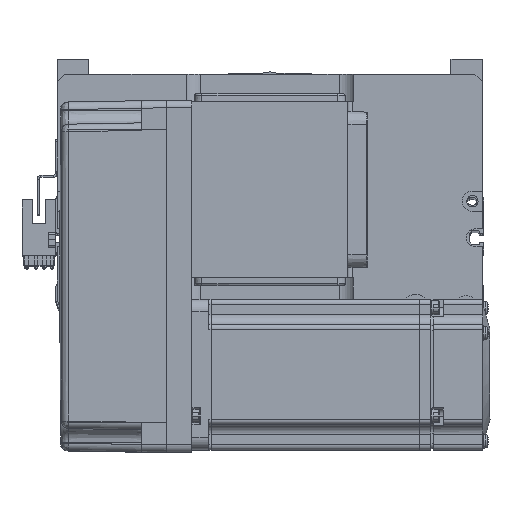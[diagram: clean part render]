
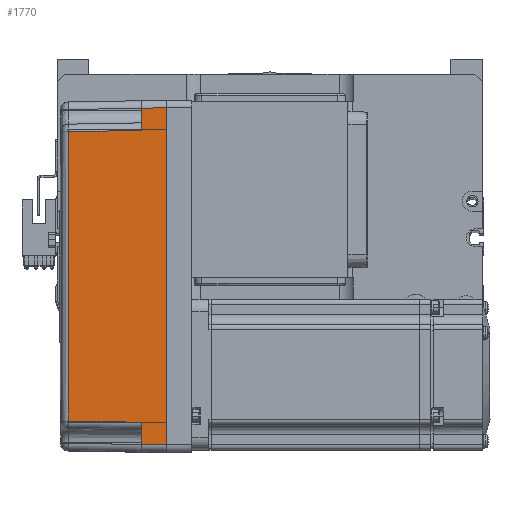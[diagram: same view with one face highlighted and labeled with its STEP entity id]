
A CAD part, top view. The second image highlights one B-rep face of the part: STEP entity #1770.
In plain terms, the highlighted planar face has unit normal (-0.018, 0, 1) as drawn and (0, -1, 0.017) by its records, which use the part's own axes.
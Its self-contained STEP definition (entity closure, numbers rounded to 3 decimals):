
#1289 = VECTOR ( 'NONE', #48291, 1000. ) ;
#1656 = ORIENTED_EDGE ( 'NONE', *, *, #17553, .T. ) ;
#1770 = ADVANCED_FACE ( 'NONE', ( #37779 ), #42570, .T. ) ;
#2294 = DIRECTION ( 'NONE',  ( -0.017, 0.017, 1. ) ) ;
#3435 = DIRECTION ( 'NONE',  ( -0.017, 0.017, 1. ) ) ;
#5139 = VERTEX_POINT ( 'NONE', #12595 ) ;
#5605 = EDGE_LOOP ( 'NONE', ( #8584, #44977, #10164, #46331, #60323, #1656, #38034, #44585 ) ) ;
#5674 = EDGE_CURVE ( 'NONE', #54773, #20363, #13111, .T. ) ;
#5702 = DIRECTION ( 'NONE',  ( 0.017, 0.017, 1. ) ) ;
#7256 = VECTOR ( 'NONE', #2294, 1000. ) ;
#8584 = ORIENTED_EDGE ( 'NONE', *, *, #40411, .T. ) ;
#10060 = CARTESIAN_POINT ( 'NONE',  ( 70., -35.825, 10. ) ) ;
#10164 = ORIENTED_EDGE ( 'NONE', *, *, #5674, .T. ) ;
#10828 = CARTESIAN_POINT ( 'NONE',  ( -66.959, -35.958, 2.39 ) ) ;
#11956 = CARTESIAN_POINT ( 'NONE',  ( 70., -35.825, 10. ) ) ;
#12595 = CARTESIAN_POINT ( 'NONE',  ( -66.826, -35.825, 10. ) ) ;
#13111 = LINE ( 'NONE', #16273, #7256 ) ;
#13277 = EDGE_CURVE ( 'NONE', #30538, #5139, #48190, .T. ) ;
#14396 = CARTESIAN_POINT ( 'NONE',  ( 70., -36., 0. ) ) ;
#15264 = B_SPLINE_CURVE_WITH_KNOTS ( 'NONE', 3,
 ( #24713, #24913, #15952, #43710 ),
 .UNSPECIFIED., .F., .F.,
 ( 4, 4 ),
 ( 0., 1. ),
 .UNSPECIFIED. ) ;
#15952 = CARTESIAN_POINT ( 'NONE',  ( -19.165, -35.316, 39.181 ) ) ;
#16273 = CARTESIAN_POINT ( 'NONE',  ( 58., -35.825, 10. ) ) ;
#17491 = CARTESIAN_POINT ( 'NONE',  ( 58., -35.825, 10. ) ) ;
#17553 = EDGE_CURVE ( 'NONE', #41812, #5139, #57248, .T. ) ;
#19123 = CARTESIAN_POINT ( 'NONE',  ( -57.495, -35.32, 38.985 ) ) ;
#19350 = DIRECTION ( 'NONE',  ( 0., -1., 0.017 ) ) ;
#19909 = CARTESIAN_POINT ( 'NONE',  ( 0., -36., 0. ) ) ;
#19956 = VECTOR ( 'NONE', #39562, 1000. ) ;
#20363 = VERTEX_POINT ( 'NONE', #46452 ) ;
#20529 = EDGE_CURVE ( 'NONE', #25635, #54773, #37798, .T. ) ;
#21405 = VERTEX_POINT ( 'NONE', #24363 ) ;
#21723 = CARTESIAN_POINT ( 'NONE',  ( -58., -35.825, 10. ) ) ;
#24363 = CARTESIAN_POINT ( 'NONE',  ( 67., -36., 0. ) ) ;
#24713 = CARTESIAN_POINT ( 'NONE',  ( 57.495, -35.32, 38.985 ) ) ;
#24913 = CARTESIAN_POINT ( 'NONE',  ( 19.165, -35.316, 39.181 ) ) ;
#25415 = VECTOR ( 'NONE', #42965, 1000. ) ;
#25482 = EDGE_CURVE ( 'NONE', #56933, #41812, #47051, .T. ) ;
#25635 = VERTEX_POINT ( 'NONE', #52317 ) ;
#26422 = CARTESIAN_POINT ( 'NONE',  ( -57.495, -35.32, 38.985 ) ) ;
#26785 = CARTESIAN_POINT ( 'NONE',  ( 67., -36., 0. ) ) ;
#29213 = EDGE_CURVE ( 'NONE', #20363, #56933, #15264, .T. ) ;
#30538 = VERTEX_POINT ( 'NONE', #41079 ) ;
#30899 = DIRECTION ( 'NONE',  ( -0.017, -0.017, -1. ) ) ;
#33739 = VECTOR ( 'NONE', #3435, 1000. ) ;
#37675 = DIRECTION ( 'NONE',  ( 0., -0.017, -1. ) ) ;
#37779 = FACE_OUTER_BOUND ( 'NONE', #5605, .T. ) ;
#37798 = LINE ( 'NONE', #10060, #25415 ) ;
#38034 = ORIENTED_EDGE ( 'NONE', *, *, #13277, .F. ) ;
#38657 = VECTOR ( 'NONE', #5702, 1000. ) ;
#39562 = DIRECTION ( 'NONE',  ( -1., 0., 0. ) ) ;
#40411 = EDGE_CURVE ( 'NONE', #21405, #25635, #49784, .T. ) ;
#41079 = CARTESIAN_POINT ( 'NONE',  ( -67., -36., 0. ) ) ;
#41167 = VECTOR ( 'NONE', #30899, 1000. ) ;
#41812 = VERTEX_POINT ( 'NONE', #21723 ) ;
#42570 = PLANE ( 'NONE',  #51032 ) ;
#42965 = DIRECTION ( 'NONE',  ( -1., 0., 0. ) ) ;
#43710 = CARTESIAN_POINT ( 'NONE',  ( -57.495, -35.32, 38.985 ) ) ;
#44585 = ORIENTED_EDGE ( 'NONE', *, *, #48226, .F. ) ;
#44977 = ORIENTED_EDGE ( 'NONE', *, *, #20529, .T. ) ;
#46331 = ORIENTED_EDGE ( 'NONE', *, *, #29213, .T. ) ;
#46452 = CARTESIAN_POINT ( 'NONE',  ( 57.495, -35.32, 38.985 ) ) ;
#47051 = LINE ( 'NONE', #26422, #41167 ) ;
#48190 = LINE ( 'NONE', #10828, #38657 ) ;
#48226 = EDGE_CURVE ( 'NONE', #21405, #30538, #51025, .T. ) ;
#48291 = DIRECTION ( 'NONE',  ( -1., 0., 0. ) ) ;
#49784 = LINE ( 'NONE', #26785, #33739 ) ;
#51025 = LINE ( 'NONE', #19909, #1289 ) ;
#51032 = AXIS2_PLACEMENT_3D ( 'NONE', #14396, #19350, #37675 ) ;
#52317 = CARTESIAN_POINT ( 'NONE',  ( 66.826, -35.825, 10. ) ) ;
#54773 = VERTEX_POINT ( 'NONE', #17491 ) ;
#56933 = VERTEX_POINT ( 'NONE', #19123 ) ;
#57248 = LINE ( 'NONE', #11956, #19956 ) ;
#60323 = ORIENTED_EDGE ( 'NONE', *, *, #25482, .T. ) ;
